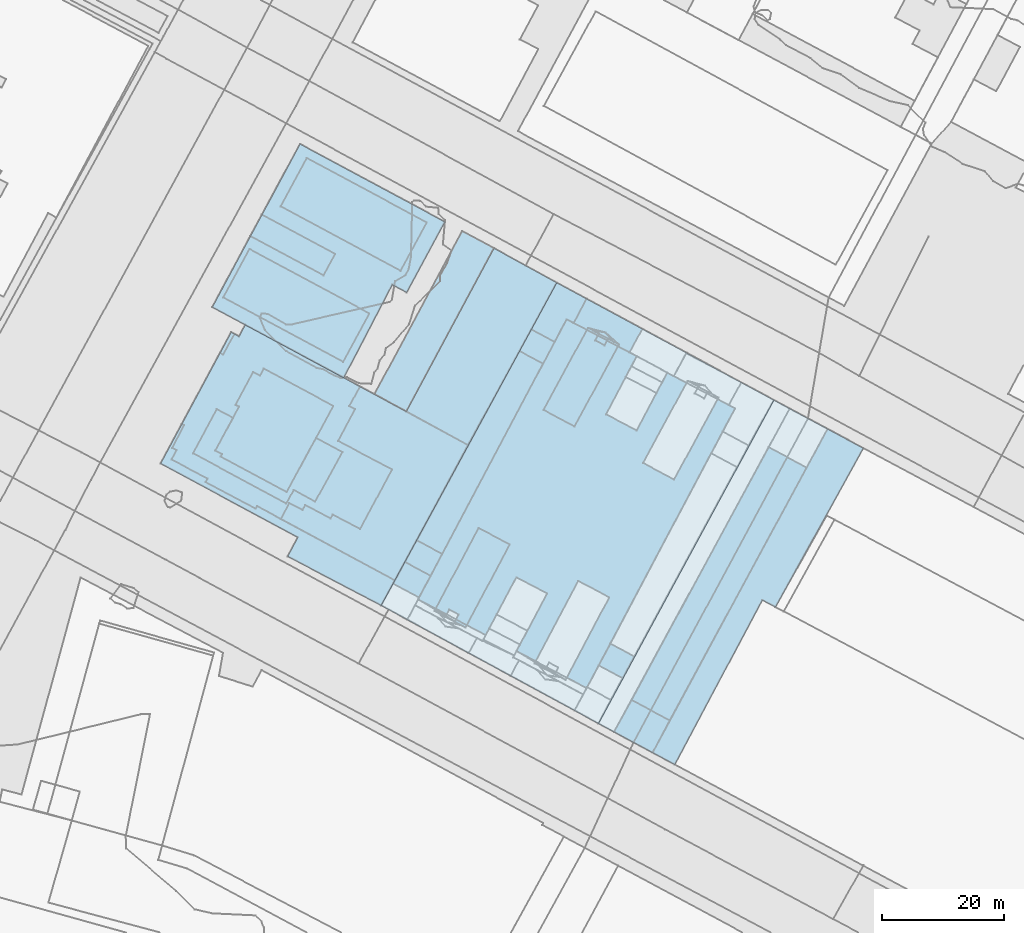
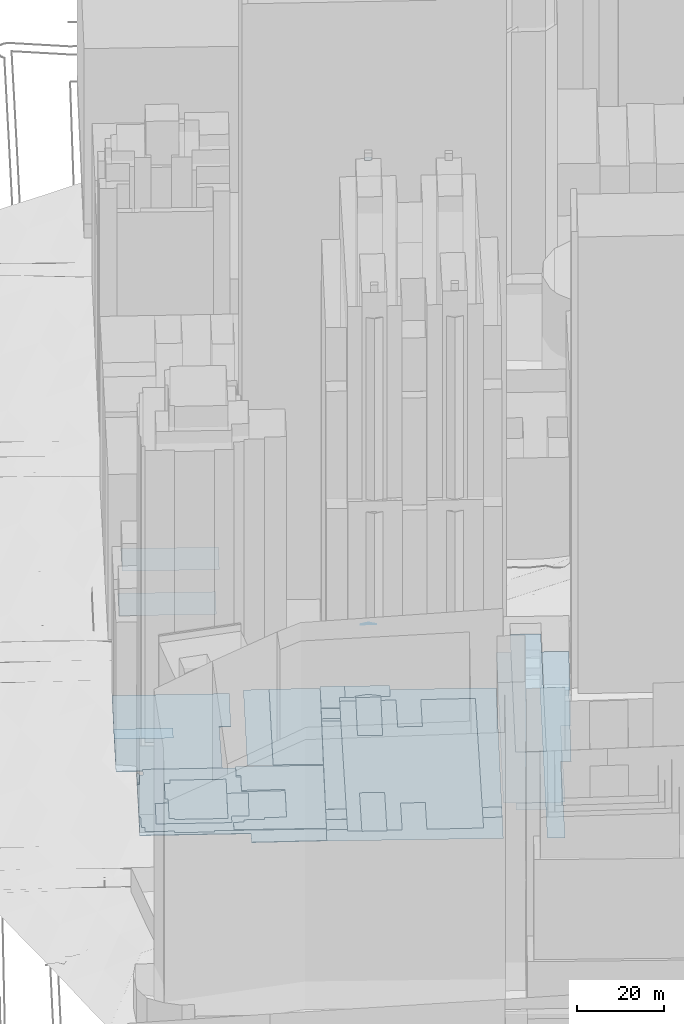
# Not in any storey, part 4 of 76: 31 footings.
"""IFC2X3 model written with IfcOpenShell, lengths in metres."""

import ifcopenshell
import ifcopenshell.guid

model = None  # the IFC model being written
_history = None  # IfcOwnerHistory: only IFC2X3 demands one
_inside = {}  # id of a spatial element -> (the spatial element, [elements in it])
_under = {}  # id of a project, library or spatial element -> (it, [spatial elements below it])
_declared = {}  # id of a project -> (the project, [libraries it declares])
_typed = {}  # id of a type object -> (the type object, [elements of that type])
_made_of = {}  # id of a material, layer set ... -> (it, [elements and type objects made of it])


def new_model(schema):
    """Start an empty IFC model of exactly this schema.

    Asked for "IFC4X3", IfcOpenShell would pick the latest addendum, in which some entities
    have other attributes; the version numbers below select the first issue.
    IFC2X3 requires an IfcOwnerHistory on every rooted entity: one is made here for all.
    """
    global model, _history
    if schema == "IFC4X3":
        model = ifcopenshell.file(schema_version=(4, 3, 0, 0))
    else:
        model = ifcopenshell.file(schema=schema)
    _inside.clear()
    _under.clear()
    _declared.clear()
    _typed.clear()
    _made_of.clear()
    _history = None
    if model.schema == "IFC2X3":
        org = make("IfcOrganization", Name="unknown")
        user = make(
            "IfcPersonAndOrganization",
            ThePerson=make("IfcPerson", FamilyName="unknown"),
            TheOrganization=org,
        )
        app = make(
            "IfcApplication",
            ApplicationDeveloper=org,
            Version="unknown",
            ApplicationFullName="unknown",
            ApplicationIdentifier="unknown",
        )
        _history = make(
            "IfcOwnerHistory",
            OwningUser=user,
            OwningApplication=app,
            ChangeAction="ADDED",
            CreationDate=0,
        )
    return model


def make(cls, **values):
    """One entity of the class cls with the attributes given. An attribute that is None is left unset."""
    return model.create_entity(
        cls, **{name: value for name, value in values.items() if value is not None}
    )


def rooted(cls, **values):
    """An entity with a GlobalId (a new one), such as an element, a storey or a relation."""
    return make(cls, GlobalId=ifcopenshell.guid.new(), OwnerHistory=_history, **values)


def si_unit(unit_type, name, prefix=None):
    """IfcSIUnit, for example si_unit("LENGTHUNIT", "METRE", prefix="MILLI")."""
    return make("IfcSIUnit", UnitType=unit_type, Prefix=prefix, Name=name)


def assignment(units):
    """IfcUnitAssignment: the units of a project."""
    return None if units is None else make("IfcUnitAssignment", Units=units)


def point(xyz):
    """IfcCartesianPoint."""
    return None if xyz is None else make("IfcCartesianPoint", Coordinates=xyz)


def direction(xyz):
    """IfcDirection."""
    return None if xyz is None else make("IfcDirection", DirectionRatios=xyz)


def frame(location, z_axis=None, x_axis=None):
    """IfcAxis2Placement3D, a coordinate frame: its origin and axes. An axis left out is left unset."""
    return make(
        "IfcAxis2Placement3D",
        Location=point(location),
        Axis=direction(z_axis),
        RefDirection=direction(x_axis),
    )


def origin_with_axes():
    """The frame at (0, 0, 0) with the z axis (0, 0, 1) and the x axis (1, 0, 0) written out."""
    return frame((0.0, 0.0, 0.0), z_axis=(0.0, 0.0, 1.0), x_axis=(1.0, 0.0, 0.0))


def place(relative_to, where):
    """IfcLocalPlacement: puts the frame where relative to a parent placement (None: the world)."""
    return make(
        "IfcLocalPlacement", PlacementRelTo=relative_to, RelativePlacement=where
    )


def context(
    kind, dimensions, precision=None, world=None, true_north=None, identifier=None
):
    """IfcGeometricRepresentationContext, for example the 3D "Model" context."""
    return make(
        "IfcGeometricRepresentationContext",
        ContextIdentifier=identifier,
        ContextType=kind,
        CoordinateSpaceDimension=dimensions,
        Precision=precision,
        WorldCoordinateSystem=world,
        TrueNorth=true_north,
    )


def subcontext(parent, identifier, kind, view, scale=None):
    """IfcGeometricRepresentationSubContext, for example "Body" below "Model"."""
    return make(
        "IfcGeometricRepresentationSubContext",
        ContextIdentifier=identifier,
        ContextType=kind,
        ParentContext=parent,
        TargetScale=scale,
        TargetView=view,
    )


def project(units=None, contexts=None):
    """IfcProject with its units and contexts."""
    return rooted(
        "IfcProject",
        Name="project",
        RepresentationContexts=contexts,
        UnitsInContext=assignment(units),
    )


def faces_of(points, faces, orient=None, outer=None):
    """IfcFace entities. A face is a list of loops; a loop is a list of indices into points, from 0.

    orient and outer hold one flag for each loop. By default every Orientation is true, the
    first loop of a face is its IfcFaceOuterBound and the others are IfcFaceBound.
    """
    made = []
    for i, loops in enumerate(faces):
        bounds = []
        for j, loop in enumerate(loops):
            is_outer = j == 0 if outer is None else outer[i][j]
            bounds.append(
                make(
                    "IfcFaceOuterBound" if is_outer else "IfcFaceBound",
                    Bound=make("IfcPolyLoop", Polygon=[points[k] for k in loop]),
                    Orientation=True if orient is None else orient[i][j],
                )
            )
        made.append(make("IfcFace", Bounds=bounds))
    return made


def faceted_brep(points, faces, orient=None, outer=None, voids=None):
    """IfcFacetedBrep: a solid bounded by flat faces; with voids (closed shells), ...WithVoids."""
    shared = [point(p) for p in points]
    hull = make("IfcClosedShell", CfsFaces=faces_of(shared, faces, orient, outer))
    if voids is None:
        return make("IfcFacetedBrep", Outer=hull)
    return make(
        "IfcFacetedBrepWithVoids",
        Outer=hull,
        Voids=[
            make(cls, CfsFaces=faces_of(shared, fs, o, b)) for cls, fs, o, b in voids
        ],
    )


def shape(context_of_items, identifier, shape_type, items):
    """IfcShapeRepresentation: the items that make up one representation, for example the "Body"."""
    return make(
        "IfcShapeRepresentation",
        ContextOfItems=context_of_items,
        RepresentationIdentifier=identifier,
        RepresentationType=shape_type,
        Items=items,
    )


def made_of(thing, what):
    """Note that an element or type object is made of a material, layer set ...; save() writes the relation."""
    if what is not None:
        _made_of.setdefault(what.id(), (what, []))[1].append(thing)
    return thing


def element(
    cls,
    number,
    at=None,
    inside=None,
    cuts=None,
    type_object=None,
    material=None,
    context=None,
    identifier="Body",
    shape_type=None,
    held_by="IfcProductDefinitionShape",
    body=None,
    shapes=None,
    **own,
):
    """One element of the class cls, such as IfcWall. Its Tag is "e" and its number.

    at: its placement. inside: the storey or other place that contains it. cuts: it is an
    opening in that element (IfcRelVoidsElement). A single representation is given by context,
    identifier, shape_type and body (its items); several are given by shapes. held_by: the class
    of the entity that holds the representations. save() writes the other relations.
    """
    e = rooted(cls, Tag="e%d" % number, ObjectPlacement=at, **own)
    if body is not None:
        shapes = [shape(context, identifier, shape_type, body)]
    if shapes is not None:
        e.Representation = make(held_by, Representations=shapes)
    if inside is not None:
        _inside.setdefault(inside.id(), (inside, []))[1].append(e)
    if cuts is not None:
        rooted(
            "IfcRelVoidsElement", RelatingBuildingElement=cuts, RelatedOpeningElement=e
        )
    if type_object is not None:
        _typed.setdefault(type_object.id(), (type_object, []))[1].append(e)
    return made_of(e, material)


def aggregate(whole, parts):
    """IfcRelAggregates: a whole, such as a stair, and the parts it consists of."""
    return rooted("IfcRelAggregates", RelatingObject=whole, RelatedObjects=parts)


def save(model, path):
    """Write the relations noted so far, then the file.

    IfcRelAggregates (storeys below a building ...), IfcRelContainedInSpatialStructure (elements
    in a storey), IfcRelDefinesByType, IfcRelAssociatesMaterial and IfcRelDeclares: one each for
    every whole, place, type object, material and project.
    """
    for whole, parts in _under.values():
        aggregate(whole, parts)
    for where, things in _inside.values():
        rooted(
            "IfcRelContainedInSpatialStructure",
            RelatedElements=things,
            RelatingStructure=where,
        )
    for kind, things in _typed.values():
        rooted("IfcRelDefinesByType", RelatedObjects=things, RelatingType=kind)
    for what, things in _made_of.values():
        rooted("IfcRelAssociatesMaterial", RelatedObjects=things, RelatingMaterial=what)
    for by, libraries in _declared.values():
        rooted("IfcRelDeclares", RelatingContext=by, RelatedDefinitions=libraries)
    model.write(path)


model = new_model("IFC2X3")

# Units and contexts
model_context = context("Model", 3, precision=1e-05, world=origin_with_axes())
body_context = subcontext(model_context, "Body", "Model", "MODEL_VIEW")
ifc_project = project(units=[si_unit("AREAUNIT", "SQUARE_METRE"), si_unit("LENGTHUNIT", "METRE")], contexts=[model_context])

# Footings
footing_1_placement = place(None, frame((117.977917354, 107.1295738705, 28.6103156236), z_axis=(0.0, 0.0, 1.0), x_axis=(1.0, 0.0, 0.0)))
element("IfcFooting", 1, at=footing_1_placement, Name="Sol 0", PredefinedType="STRIP_FOOTING", context=body_context, shape_type="Brep", body=[
    faceted_brep([(6.3201951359, -3.4126857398, 0.0), (0.0, 0.0, 0.0), (2.9022495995, 5.2295679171, 0.0), (9.1372634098, 1.8825086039, 0.0)], [[[0, 1, 2]], [[2, 3, 0]]]),
])
footing_2_placement = place(None, frame((115.4875749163, 118.0363623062, 20.7911243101), z_axis=(0.0, 0.0, 1.0), x_axis=(1.0, 0.0, 0.0)))
element("IfcFooting", 2, at=footing_2_placement, Name="Sol 0", PredefinedType="STRIP_FOOTING", context=body_context, shape_type="Brep", body=[
    faceted_brep([(3.8991819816, -2.1085420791, 0.0), (0.0, 0.0, 0.0), (1.8915978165, 3.5746936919, 0.0), (5.8246692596, 1.4554440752, 0.0)], [[[0, 1, 2]], [[2, 3, 0]]]),
])
footing_3_placement = place(None, frame((124.2981124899, 103.7168881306, 20.5602683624), z_axis=(0.0, 0.0, 1.0), x_axis=(1.0, 0.0, 0.0)))
element("IfcFooting", 3, at=footing_3_placement, Name="Sol 0", PredefinedType="STRIP_FOOTING", context=body_context, shape_type="Brep", body=[
    faceted_brep([(3.6522260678, -1.9226684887, 0.0), (0.0, 0.0, 0.0), (28.6922531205, 53.0912869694, 0.0), (34.5701681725, 49.9621498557, 0.0), (20.1510385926, 23.8930274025, 0.0), (18.0018064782, 25.0559943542, 0.0)], [[[0, 1, 2]], [[3, 4, 5]], [[5, 0, 2]], [[2, 3, 5]]]),
])
footing_4_placement = place(None, frame((115.4207049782, 108.532058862, 30.5602683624), z_axis=(0.0, 0.0, 1.0), x_axis=(1.0, 0.0, 0.0)))
element("IfcFooting", 4, at=footing_4_placement, Name="Sol 0", PredefinedType="STRIP_FOOTING", context=body_context, shape_type="Brep", body=[
    faceted_brep([(12.5296335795, -6.7378392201, 0.0), (0.0, 0.0, 0.0), (28.7687753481, 53.0477319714, 0.0), (43.4475756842, 45.1469791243, 0.0), (29.0284461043, 19.0778566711, 0.0), (26.8792139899, 20.2408236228, 0.0)], [[[0, 1, 2]], [[3, 4, 5]], [[5, 0, 2]], [[2, 3, 5]]]),
])
footing_5_placement = place(None, frame((120.8801669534, 112.3591417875, 40.6481645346), z_axis=(0.0, 0.0, 1.0), x_axis=(1.0, 0.0, 0.0)))
element("IfcFooting", 5, at=footing_5_placement, Name="Sol 0", PredefinedType="STRIP_FOOTING", context=body_context, shape_type="Brep", body=[
    faceted_brep([(6.2350138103, -3.3470593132, 0.0), (0.0, 0.0, 0.0), (22.4624654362, 41.461436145, 0.0), (28.6975847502, 38.1032951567, 0.0)], [[[0, 1, 2]], [[2, 3, 0]]]),
])
footing_6_placement = place(None, frame((85.8586663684, 128.8500079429, 20.7906594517), z_axis=(0.0, 0.0, 1.0), x_axis=(1.0, 0.0, 0.0)))
element("IfcFooting", 6, at=footing_6_placement, Name="Sol 0", PredefinedType="STRIP_FOOTING", context=body_context, shape_type="Brep", body=[
    faceted_brep([(11.1010060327, -5.844095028, 0.0), (0.0, 0.0, 0.0), (24.3521878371, 45.9352801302, 0.0), (27.6547095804, -14.544729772, 0.0), (16.1375167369, -8.4834476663, 0.0), (21.1599686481, 0.9895951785, 0.0), (40.8642373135, 37.1786817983, 0.0), (51.973663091, 31.3347461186, 0.0), (35.8607355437, 39.8850142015, 0.0), (30.8135250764, 30.3672629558, 0.0), (16.1233334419, 3.6400451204, 0.0), (35.8417076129, 27.7167250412, 0.0)], [[[0, 1, 2]], [[3, 4, 5]], [[6, 7, 3]], [[2, 8, 9]], [[10, 0, 2]], [[11, 6, 3]], [[10, 2, 9]], [[11, 3, 5]], [[10, 9, 11]], [[11, 5, 10]]]),
])
footing_7_placement = place(None, frame((79.7834254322, 127.8912834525, 20.6975796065), z_axis=(0.0, 0.0, 1.0), x_axis=(1.0, 0.0, 0.0)))
element("IfcFooting", 7, at=footing_7_placement, Name="Sol 0", PredefinedType="STRIP_FOOTING", context=body_context, shape_type="Brep", body=[
    faceted_brep([(35.637279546, -19.3592245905, 0.0), (0.0, 0.0, 0.0), (28.8041259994, 52.9258761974, 0.0), (64.4060548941, 33.6885073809, 0.0)], [[[0, 1, 2]], [[2, 3, 0]]]),
])
footing_8_placement = place(None, frame((106.4243167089, 159.930902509, 21.4761548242), z_axis=(0.0, 0.0, 1.0), x_axis=(1.0, 0.0, 0.0)))
element("IfcFooting", 8, at=footing_8_placement, Name="Sol 0", PredefinedType="STRIP_FOOTING", context=body_context, shape_type="Brep", body=[
    faceted_brep([(5.0797232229, -2.7276618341, 0.0), (0.0, 0.0, 0.0), (7.2976187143, 13.4518772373, 0.0), (12.3774646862, 10.7131197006, 0.0)], [[[0, 1, 2]], [[2, 3, 0]]]),
])
footing_9_placement = place(None, frame((102.4881306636, 169.5885518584, 21.7443464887), z_axis=(0.0, 0.0, 1.0), x_axis=(1.0, 0.0, 0.0)))
element("IfcFooting", 9, at=footing_9_placement, Name="Sol 0", PredefinedType="STRIP_FOOTING", context=body_context, shape_type="Brep", body=[
    faceted_brep([(3.865132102, -2.0867392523, 0.0), (0.0, 0.0, 0.0), (1.9256092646, 3.5528813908, 0.0), (5.7567207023, 1.4879525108, 0.0)], [[[0, 1, 2]], [[2, 3, 0]]]),
])
footing_10_placement = place(None, frame((114.5459395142, 172.9371592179, 41.8919622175), z_axis=(0.0, 0.0, 1.0), x_axis=(1.0, 0.0, 0.0)))
element("IfcFooting", 10, at=footing_10_placement, Name="Sol 0", PredefinedType="STRIP_FOOTING", context=body_context, shape_type="Brep", body=[
    faceted_brep([(2.4804532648, -1.3367629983, 0.0), (0.0, 0.0, 0.0), (2.0464414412, -0.3092952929, 0.0), (3.4318372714, -1.8475169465, 0.0)], [[[0, 1, 2]], [[2, 3, 0]]]),
])
footing_11_placement = place(None, frame((114.9105640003, 171.3426705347, 172.8731858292), z_axis=(0.0, 0.0, 1.0), x_axis=(1.0, 0.0, 0.0)))
element("IfcFooting", 11, at=footing_11_placement, Name="Sol 0", PredefinedType="STRIP_FOOTING", context=body_context, shape_type="Brep", body=[
    faceted_brep([(1.529069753, -0.8260088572, 0.0), (0.0, 0.0, 0.0), (0.5867591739, 1.0837344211, 0.0), (2.1158287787, 0.2577256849, 0.0)], [[[0, 1, 2]], [[2, 3, 0]]]),
])
footing_12_placement = place(None, frame((111.3914170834, 174.1661728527, 21.831197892), z_axis=(0.0, 0.0, 1.0), x_axis=(1.0, 0.0, 0.0)))
element("IfcFooting", 12, at=footing_12_placement, Name="Sol 0", PredefinedType="STRIP_FOOTING", context=body_context, shape_type="Brep", body=[
    faceted_brep([(2.1403869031, -1.1297715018, 0.0), (0.0, 0.0, 0.0), (2.1061341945, 3.9990709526, 0.0), (9.1388508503, -4.8010344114, 0.0), (7.2449094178, -3.8127312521, 0.0), (7.4103643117, -3.5221506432, 0.0), (11.2550985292, -0.9461725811, 0.0), (2.3305183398, -0.7833931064, 0.0), (5.2009638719, -1.5383089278, 0.0)], [[[0, 1, 2]], [[3, 4, 5]], [[2, 6, 3]], [[7, 0, 2]], [[3, 5, 8]], [[8, 7, 2]], [[2, 3, 8]]]),
])
footing_13_placement = place(None, frame((104.4137399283, 173.1414332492, 21.8630474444), z_axis=(0.0, 0.0, 1.0), x_axis=(1.0, 0.0, 0.0)))
element("IfcFooting", 13, at=footing_13_placement, Name="Sol 0", PredefinedType="STRIP_FOOTING", context=body_context, shape_type="Brep", body=[
    faceted_brep([(3.8311114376, -2.06492888, 0.0), (0.0, 0.0, 0.0), (4.1738115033, 7.6757264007, 0.0), (9.0838113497, 5.0238105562, 0.0), (6.9776771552, 1.0247396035, 0.0), (5.7971142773, 1.6438548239, 0.0)], [[[0, 1, 2]], [[3, 4, 5]], [[5, 0, 2]], [[2, 3, 5]]]),
])
footing_14_placement = place(None, frame((78.7061684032, 162.506692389, 21.2045848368), z_axis=(0.0, 0.0, 1.0), x_axis=(1.0, 0.0, 0.0)))
element("IfcFooting", 14, at=footing_14_placement, Name="Sol 0", PredefinedType="STRIP_FOOTING", context=body_context, shape_type="Brep", body=[
    faceted_brep([(5.2156594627, -2.803817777, 0.0), (0.0, 0.0, 0.0), (14.377530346, 26.7568479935, 0.0), (19.5931770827, 23.953040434, 0.0)], [[[0, 1, 2]], [[2, 3, 0]]]),
])
footing_15_placement = place(None, frame((53.9063589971, 178.3836490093, 62.2466982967), z_axis=(0.0, 0.0, 1.0), x_axis=(1.0, 0.0, 0.0)))
element("IfcFooting", 15, at=footing_15_placement, Name="Sol 0", PredefinedType="STRIP_FOOTING", context=body_context, shape_type="Brep", body=[
    faceted_brep([(19.6563100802, -10.5631889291, 0.0), (0.0, 0.0, 0.0), (4.2973726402, 7.9435850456, 0.0), (23.9622377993, -2.6305951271, 0.0)], [[[0, 1, 2]], [[2, 3, 0]]]),
])
footing_16_placement = place(None, frame((52.1098467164, 176.7973780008, 20.2692366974), z_axis=(0.0, 0.0, 1.0), x_axis=(1.0, 0.0, 0.0)))
element("IfcFooting", 16, at=footing_16_placement, Name="Sol 0", PredefinedType="STRIP_FOOTING", context=body_context, shape_type="Brep", body=[
    faceted_brep([(21.5590744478, -11.5847130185, 0.0), (0.0, 0.0, 0.0), (14.3775952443, 26.7567958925, 0.0), (38.1367223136, 13.9875293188, 0.0), (31.872471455, 2.412853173, 0.0), (29.5109655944, 3.6843947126, 0.0)], [[[0, 1, 2]], [[3, 4, 5]], [[5, 0, 2]], [[2, 3, 5]]]),
])
footing_17_placement = place(None, frame((52.1098467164, 176.7973780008, 20.0588630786), z_axis=(0.0, 0.0, 1.0), x_axis=(1.0, 0.0, 0.0)))
element("IfcFooting", 17, at=footing_17_placement, Name="Sol 0", PredefinedType="STRIP_FOOTING", context=body_context, shape_type="Brep", body=[
    faceted_brep([(21.5590744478, -11.5847130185, 0.0), (0.0, 0.0, 0.0), (6.2211982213, 11.6518637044, 0.0), (38.1367223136, 13.9875293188, 0.0), (31.872471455, 2.412853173, 0.0), (29.5109655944, 3.6843947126, 0.0), (8.1303289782, 15.1712352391, 0.0), (14.3775952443, 26.7567958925, 0.0), (18.2324312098, 5.1965718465, 0.0), (20.1415581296, 8.715946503, 0.0)], [[[0, 1, 2]], [[3, 4, 5]], [[6, 7, 3]], [[0, 2, 8]], [[6, 3, 5]], [[0, 8, 9]], [[9, 6, 5]], [[5, 0, 9]]]),
])
footing_18_placement = place(None, frame((63.3141408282, 193.3143650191, 62.430841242), z_axis=(0.0, 0.0, 1.0), x_axis=(1.0, 0.0, 0.0)))
element("IfcFooting", 18, at=footing_18_placement, Name="Sol 0", PredefinedType="STRIP_FOOTING", context=body_context, shape_type="Brep", body=[
    faceted_brep([(19.6564142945, -10.5742645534, 0.0), (0.0, 0.0, 0.0), (4.2974822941, 7.9324902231, 0.0), (23.9623227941, -2.6416648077, 0.0)], [[[0, 1, 2]], [[2, 3, 0]]]),
])
footing_19_placement = place(None, frame((58.3310449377, 188.4492417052, 20.0588630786), z_axis=(0.0, 0.0, 1.0), x_axis=(1.0, 0.0, 0.0)))
element("IfcFooting", 19, at=footing_19_placement, Name="Sol 0", PredefinedType="STRIP_FOOTING", context=body_context, shape_type="Brep", body=[
    faceted_brep([(12.0112329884, -6.4552918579, 0.0), (0.0, 0.0, 0.0), (1.9091307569, 3.5193715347, 0.0), (13.9203599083, -2.9359172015, 0.0)], [[[0, 1, 2]], [[2, 3, 0]]]),
])
footing_20_placement = place(None, frame((53.3786072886, 169.3069851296, 21.038693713), z_axis=(0.0, 0.0, 1.0), x_axis=(1.0, 0.0, 0.0)))
element("IfcFooting", 20, at=footing_20_placement, Name="Sol 0", PredefinedType="STRIP_FOOTING", context=body_context, shape_type="Brep", body=[
    faceted_brep([(0.5353523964, -0.3046485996, 0.0), (0.0, 0.0, 0.0), (1.8261519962, 3.3962819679, 0.0), (2.3698157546, 3.1028322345, 0.0)], [[[0, 1, 2]], [[2, 3, 0]]]),
])
footing_21_placement = place(None, frame((48.9439736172, 152.8241808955, 21.1794819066), z_axis=(0.0, 0.0, 1.0), x_axis=(1.0, 0.0, 0.0)))
element("IfcFooting", 21, at=footing_21_placement, Name="Sol 0", PredefinedType="STRIP_FOOTING", context=body_context, shape_type="Brep", body=[
    faceted_brep([(24.5122266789, 0.1735393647, 0.0), (20.031093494, -7.9387212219, 0.0), (16.539143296, -6.0030615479, 0.0), (15.3699209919, -6.3608053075, 0.0), (20.1715989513, 2.4990246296, 0.0), (3.6753780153, 0.4423431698, 0.0), (4.788158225, -0.1553634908, 0.0), (4.5649061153, -0.5576359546, 0.0), (3.9173823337, 7.2286264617, 0.0), (6.5761073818, 5.8050944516, 0.0), (0.0, 0.0, 0.0), (15.3072963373, -8.2378124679, 0.0)], [[[0, 1, 2]], [[3, 4, 0]], [[5, 6, 7]], [[8, 9, 5]], [[3, 0, 2]], [[10, 8, 5]], [[3, 2, 11]], [[10, 5, 7]], [[3, 11, 10]], [[10, 7, 3]]]),
])
footing_22_placement = place(None, frame((52.6193516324, 153.2665240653, 20.9538410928), z_axis=(0.0, 0.0, 1.0), x_axis=(1.0, 0.0, 0.0)))
element("IfcFooting", 22, at=footing_22_placement, Name="Sol 0", PredefinedType="STRIP_FOOTING", context=body_context, shape_type="Brep", body=[
    faceted_brep([(1.1127802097, -0.5977066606, 0.0), (0.0, 0.0, 0.0), (3.8925728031, 7.1839315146, 0.0), (11.6945429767, -6.8031484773, 0.0), (0.8895281, -0.9999791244, 0.0), (7.9393204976, 13.448168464, 0.0), (19.3390148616, 7.3188466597, 0.0), (3.2894387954, 7.5099976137, 0.0), (6.1901626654, 12.8727503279, 0.0), (7.3113819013, 12.2751425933, 0.0)], [[[0, 1, 2]], [[3, 4, 0]], [[5, 6, 3]], [[7, 8, 9]], [[3, 0, 2]], [[9, 5, 3]], [[2, 7, 9]], [[9, 3, 2]]]),
])
footing_23_placement = place(None, frame((45.4357916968, 151.795361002, 20.6875388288), z_axis=(0.0, 0.0, 1.0), x_axis=(1.0, 0.0, 0.0)))
element("IfcFooting", 23, at=footing_23_placement, Name="Sol 0", PredefinedType="STRIP_FOOTING", context=body_context, shape_type="Brep", body=[
    faceted_brep([(5.9203309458, -3.1509334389, 0.0), (0.0, 0.0, 0.0), (0.8347003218, 1.5417986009, 0.0), (13.7856998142, -8.0556430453, 0.0), (5.6146072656, -3.720696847, 0.0), (19.3210010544, -7.125408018, 0.0), (17.9245978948, -9.7284433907, 0.0), (14.0088230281, -7.6422696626, 0.0), (21.9247729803, -7.4504512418, 0.0), (21.4785274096, -8.2771984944, 0.0), (26.4255795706, -9.0302271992, 0.0), (26.0784283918, -9.6670859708, 0.0), (36.1572274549, -1.6341566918, 0.0), (30.9185296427, -11.3872491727, 0.0), (29.1483116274, 8.7538826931, 0.0), (30.0995650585, 8.2542240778, 0.0), (27.3067714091, 3.0481492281, 0.0), (12.0765422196, 22.100429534, 0.0), (30.9087376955, 11.9939753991, 0.0), (8.4781679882, 17.206975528, 0.0), (10.3126313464, 20.6144563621, 0.0), (11.0601529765, 20.2123506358, 0.0), (1.679905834, 5.8148724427, 0.0), (7.9428155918, 17.5116241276, 0.0), (0.1044447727, 1.9107990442, 0.0), (2.0700969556, 5.6528677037, 0.0)], [[[0, 1, 2]], [[3, 4, 0]], [[5, 6, 7]], [[8, 9, 5]], [[10, 11, 8]], [[12, 13, 10]], [[14, 15, 16]], [[17, 18, 14]], [[19, 20, 21]], [[22, 23, 19]], [[2, 24, 25]], [[3, 0, 2]], [[12, 10, 8]], [[17, 14, 16]], [[22, 19, 21]], [[3, 2, 25]], [[12, 8, 5]], [[21, 17, 16]], [[25, 22, 21]], [[7, 3, 25]], [[12, 5, 7]], [[25, 21, 16]], [[12, 7, 25]], [[25, 16, 12]]]),
])
footing_24_placement = place(None, frame((43.6198790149, 151.1525582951, 20.6875388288), z_axis=(0.0, 0.0, 1.0), x_axis=(1.0, 0.0, 0.0)))
element("IfcFooting", 24, at=footing_24_placement, Name="Sol 0", PredefinedType="STRIP_FOOTING", context=body_context, shape_type="Brep", body=[
    faceted_brep([(22.5189582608, -12.0954008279, 0.0), (0.0, 0.0, 0.0), (11.5848802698, 21.5507088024, 0.0), (36.1635464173, -23.2612748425, 0.0), (20.8331965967, -15.2236014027, 0.0), (54.679466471, 35.307174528, 0.0), (64.9676724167, 29.6646013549, 0.0), (12.8760656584, 20.8551533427, 0.0), (13.8924549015, 22.7432322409, 0.0), (40.301948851, 8.550316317, 0.0)], [[[0, 1, 2]], [[3, 4, 0]], [[5, 6, 3]], [[7, 8, 9]], [[0, 2, 7]], [[9, 5, 3]], [[0, 7, 9]], [[9, 3, 0]]]),
])
footing_25_placement = place(None, frame((83.9218278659, 159.7028746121, 21.3185794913), z_axis=(0.0, 0.0, 1.0), x_axis=(1.0, 0.0, 0.0)))
element("IfcFooting", 25, at=footing_25_placement, Name="Sol 0", PredefinedType="STRIP_FOOTING", context=body_context, shape_type="Brep", body=[
    faceted_brep([(10.1183913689, -5.5557477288, 0.0), (0.0, 0.0, 0.0), (14.37751762, 26.756858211, 0.0), (24.6657235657, 21.1142850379, 0.0)], [[[0, 1, 2]], [[2, 3, 0]]]),
])
footing_26_placement = place(None, frame((85.6362783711, 138.5507919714, 21.0890233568), z_axis=(0.0, 0.0, 1.0), x_axis=(1.0, 0.0, 0.0)))
element("IfcFooting", 26, at=footing_26_placement, Name="Sol 0", PredefinedType="STRIP_FOOTING", context=body_context, shape_type="Brep", body=[
    faceted_brep([(4.1792434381, -2.2385320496, 0.0), (0.0, 0.0, 0.0), (16.8518522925, 31.0377598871, 0.0), (20.7169843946, 28.9510206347, 0.0)], [[[0, 1, 2]], [[2, 3, 0]]]),
])
footing_27_placement = place(None, frame((63.3603895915, 142.0669176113, 21.031144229), z_axis=(0.0, 0.0, 1.0), x_axis=(1.0, 0.0, 0.0)))
element("IfcFooting", 27, at=footing_27_placement, Name="Sol 0", PredefinedType="STRIP_FOOTING", context=body_context, shape_type="Brep", body=[
    faceted_brep([(18.6972361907, -10.1080082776, 0.0), (0.0, 0.0, 0.0), (1.3964031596, 2.6030353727, 0.0), (11.2237137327, 18.4823260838, 0.0), (12.9841398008, 21.7224187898, 0.0), (30.6798296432, 12.080209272, 0.0), (18.2326295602, 8.0942866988, 0.0), (9.3821735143, 12.7765926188, 0.0), (12.1749671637, 17.9826674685, 0.0), (8.1538304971, 0.0613574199, 0.0), (8.5009816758, 0.6982161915, 0.0), (12.993931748, -1.658805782, 0.0), (3.5539295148, 1.4512448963, 0.0), (4.0001750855, 2.2779921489, 0.0)], [[[0, 1, 2]], [[3, 4, 5]], [[6, 7, 8]], [[9, 10, 11]], [[12, 13, 9]], [[0, 2, 12]], [[8, 3, 5]], [[12, 9, 11]], [[6, 8, 5]], [[0, 12, 11]], [[6, 5, 0]], [[0, 11, 6]]]),
])
footing_28_placement = place(None, frame((88.5482734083, 126.9494492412, 20.9399890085), z_axis=(0.0, 0.0, 1.0), x_axis=(1.0, 0.0, 0.0)))
element("IfcFooting", 28, at=footing_28_placement, Name="Sol 0", PredefinedType="STRIP_FOOTING", context=body_context, shape_type="Brep", body=[
    faceted_brep([(5.0963614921, -2.7052766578, 0.0), (0.0, 0.0, 0.0), (7.2282283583, 13.617585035, 0.0), (12.3328949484, 10.9235121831, 0.0)], [[[0, 1, 2]], [[2, 3, 0]]]),
])
footing_29_placement = place(None, frame((83.7106505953, 134.9979159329, 21.0569415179), z_axis=(0.0, 0.0, 1.0), x_axis=(1.0, 0.0, 0.0)))
element("IfcFooting", 29, at=footing_29_placement, Name="Sol 0", PredefinedType="STRIP_FOOTING", context=body_context, shape_type="Brep", body=[
    faceted_brep([(4.2049527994, -2.2715413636, 0.0), (0.0, 0.0, 0.0), (1.9256277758, 3.5528760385, 0.0), (6.1048712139, 1.3143439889, 0.0)], [[[0, 1, 2]], [[2, 3, 0]]]),
])
footing_30_placement = place(None, frame((81.7767093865, 131.433841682, 21.0074778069), z_axis=(0.0, 0.0, 1.0), x_axis=(1.0, 0.0, 0.0)))
element("IfcFooting", 30, at=footing_30_placement, Name="Sol 0", PredefinedType="STRIP_FOOTING", context=body_context, shape_type="Brep", body=[
    faceted_brep([(4.2388447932, -2.2822511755, 0.0), (0.0, 0.0, 0.0), (1.9339412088, 3.5640742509, 0.0), (6.1388940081, 1.2925328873, 0.0)], [[[0, 1, 2]], [[2, 3, 0]]]),
])
footing_31_placement = place(None, frame((43.6198790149, 151.1525582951, 20.8515693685), z_axis=(0.0, 0.0, 1.0), x_axis=(1.0, 0.0, 0.0)))
element("IfcFooting", 31, at=footing_31_placement, Name="Sol 0", PredefinedType="STRIP_FOOTING", context=body_context, shape_type="Brep", body=[
    faceted_brep([(36.1635464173, -23.2612748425, 0.0), (20.8331965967, -15.2236014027, 0.0), (22.5189582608, -12.0954008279, 0.0), (15.6016124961, -7.4128403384, 0.0), (15.8247357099, -6.9994669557, 0.0), (38.4377467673, -19.1936489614, 0.0), (1.8159126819, 0.6428027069, 0.0), (7.7362436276, -2.508130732, 0.0), (7.4305199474, -3.07789414, 0.0), (1.9203574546, 2.5536017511, 0.0), (2.6506130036, 2.1846013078, 0.0), (3.4958185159, 6.4576751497, 0.0), (3.8860096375, 6.2956704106, 0.0), (0.0, 0.0, 0.0)], [[[0, 1, 2]], [[3, 4, 5]], [[6, 7, 8]], [[9, 10, 6]], [[11, 12, 9]], [[5, 0, 2]], [[13, 11, 9]], [[5, 2, 13]], [[13, 9, 6]], [[3, 5, 13]], [[13, 6, 8]], [[8, 3, 13]]]),
])

save(model, "model.ifc")
